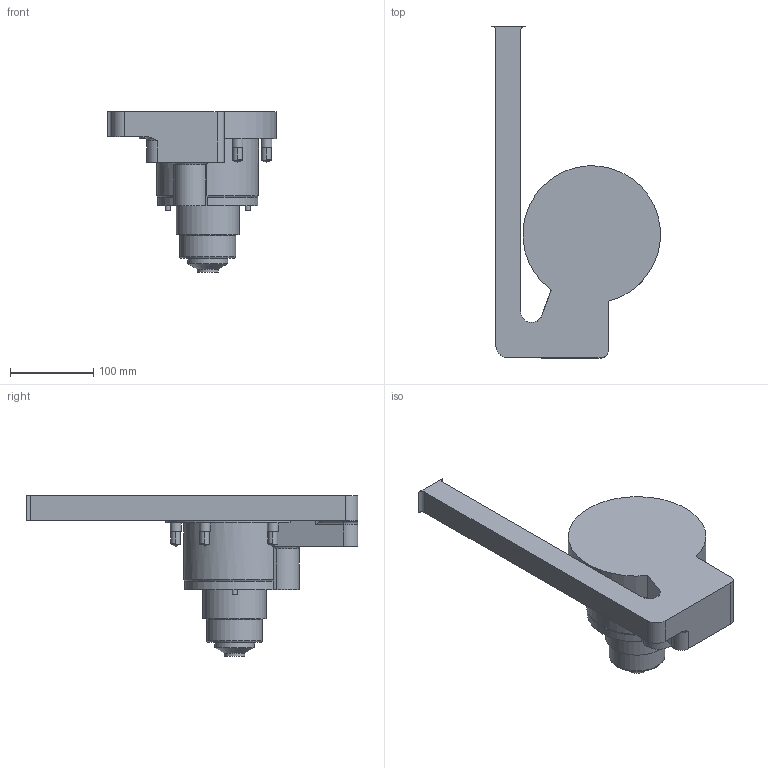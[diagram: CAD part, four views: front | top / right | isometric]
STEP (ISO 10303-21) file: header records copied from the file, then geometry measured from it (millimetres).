
FILE_DESCRIPTION( ( 'STEP AP214' ), '1' );
FILE_NAME( 'Z:/PROIECTE_YUDO_2009_dupa_1.07.2009/PROIECTE YUDO 3D 01.07.2009/SAS/YUEU09-SAS42LVF160_5/SAS42LVF160_5_CUTOUT.step', '2009-09-10T08:10:51', ( ' ' ), ( ' ' ), 'XStep 1.0', ' ', ' ' );
FILE_SCHEMA( ( 'automotive_design' ) );
Length unit declared in the file: millimetre
Products named in the file (1): 1
Bounding box: 202.3 x 398 x 192.5 mm (x, y, z)
Volume: 2732772.8 mm3; surface area: 188639.2 mm2
Topology: 1 solids, 1 shells, 88 faces, 208 edges, 137 vertices
Faces by surface type: plane 39, cylinder 37, cone 9, torus 3
Full cylindrical faces by diameter (mm): 6 x2, 11.35 x5, 13 x5, 25 x1, 48 x1, 67 x1, 76 x1
Entity records: 3110 total; most frequent: CARTESIAN_POINT 456, DIRECTION 422, ORIENTED_EDGE 342, EDGE_CURVE 171, AXIS2_PLACEMENT_3D 170, VERTEX_POINT 130, EDGE_LOOP 128, FACE_OUTER_BOUND 105
